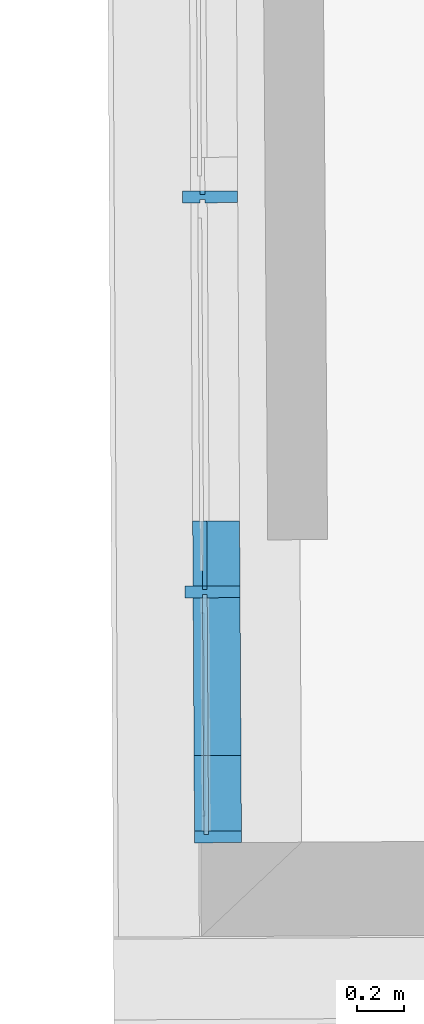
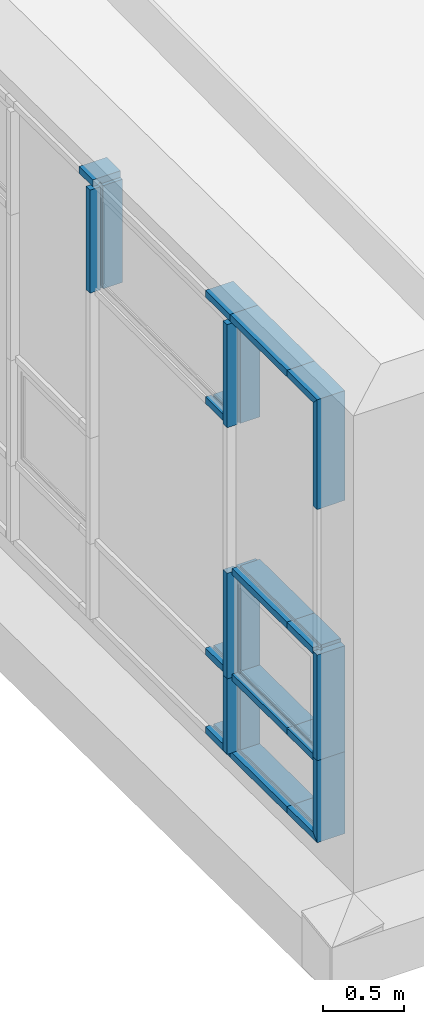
# One storey, part 116 of 158: 20 building element parts, 1 element without a shape of its own.
"""IFC2X3 building model written with IfcOpenShell, lengths in metres."""

import ifcopenshell
import ifcopenshell.guid

model = None  # the IFC model being written
_history = None  # IfcOwnerHistory: only IFC2X3 demands one
_inside = {}  # id of a spatial element -> (the spatial element, [elements in it])
_under = {}  # id of a project, library or spatial element -> (it, [spatial elements below it])
_declared = {}  # id of a project -> (the project, [libraries it declares])
_typed = {}  # id of a type object -> (the type object, [elements of that type])
_made_of = {}  # id of a material, layer set ... -> (it, [elements and type objects made of it])


def new_model(schema):
    """Start an empty IFC model of exactly this schema.

    Asked for "IFC4X3", IfcOpenShell would pick the latest addendum, in which some entities
    have other attributes; the version numbers below select the first issue.
    IFC2X3 requires an IfcOwnerHistory on every rooted entity: one is made here for all.
    """
    global model, _history
    if schema == "IFC4X3":
        model = ifcopenshell.file(schema_version=(4, 3, 0, 0))
    else:
        model = ifcopenshell.file(schema=schema)
    _inside.clear()
    _under.clear()
    _declared.clear()
    _typed.clear()
    _made_of.clear()
    _history = None
    if model.schema == "IFC2X3":
        org = make("IfcOrganization", Name="unknown")
        user = make(
            "IfcPersonAndOrganization",
            ThePerson=make("IfcPerson", FamilyName="unknown"),
            TheOrganization=org,
        )
        app = make(
            "IfcApplication",
            ApplicationDeveloper=org,
            Version="unknown",
            ApplicationFullName="unknown",
            ApplicationIdentifier="unknown",
        )
        _history = make(
            "IfcOwnerHistory",
            OwningUser=user,
            OwningApplication=app,
            ChangeAction="ADDED",
            CreationDate=0,
        )
    return model


def make(cls, **values):
    """One entity of the class cls with the attributes given. An attribute that is None is left unset."""
    return model.create_entity(
        cls, **{name: value for name, value in values.items() if value is not None}
    )


def entity(cls, *values):
    """Any entity or typed value of the class cls, its attributes in the order of the schema. None: left unset."""
    e = model.create_entity(cls)
    for i, value in enumerate(values):
        if value is not None:
            e[i] = value
    return e


def rooted(cls, **values):
    """An entity with a GlobalId (a new one), such as an element, a storey or a relation."""
    return make(cls, GlobalId=ifcopenshell.guid.new(), OwnerHistory=_history, **values)


def si_unit(unit_type, name, prefix=None):
    """IfcSIUnit, for example si_unit("LENGTHUNIT", "METRE", prefix="MILLI")."""
    return make("IfcSIUnit", UnitType=unit_type, Prefix=prefix, Name=name)


def converted_unit(unit_type, name, factor, base, dimensions=None, offset=None):
    """IfcConversionBasedUnit, such as the inch: factor (a typed value) times the base unit."""
    return make(
        "IfcConversionBasedUnit"
        if offset is None
        else "IfcConversionBasedUnitWithOffset",
        ConversionOffset=offset,
        Dimensions=None
        if dimensions is None
        else entity("IfcDimensionalExponents", *dimensions),
        UnitType=unit_type,
        Name=name,
        ConversionFactor=make(
            "IfcMeasureWithUnit", ValueComponent=factor, UnitComponent=base
        ),
    )


def derived_unit(unit_type, elements):
    """IfcDerivedUnit: a product of units, each with its exponent."""
    return make(
        "IfcDerivedUnit",
        Elements=[
            make("IfcDerivedUnitElement", Unit=unit, Exponent=power)
            for unit, power in elements
        ],
        UnitType=unit_type,
    )


def money_unit(currency):
    """IfcMonetaryUnit."""
    return make("IfcMonetaryUnit", Currency=currency)


def assignment(units):
    """IfcUnitAssignment: the units of a project."""
    return None if units is None else make("IfcUnitAssignment", Units=units)


def point(xyz):
    """IfcCartesianPoint."""
    return None if xyz is None else make("IfcCartesianPoint", Coordinates=xyz)


def direction(xyz):
    """IfcDirection."""
    return None if xyz is None else make("IfcDirection", DirectionRatios=xyz)


def frame(location, z_axis=None, x_axis=None):
    """IfcAxis2Placement3D, a coordinate frame: its origin and axes. An axis left out is left unset."""
    return make(
        "IfcAxis2Placement3D",
        Location=point(location),
        Axis=direction(z_axis),
        RefDirection=direction(x_axis),
    )


def origin_with_axes():
    """The frame at (0, 0, 0) with the z axis (0, 0, 1) and the x axis (1, 0, 0) written out."""
    return frame((0.0, 0.0, 0.0), z_axis=(0.0, 0.0, 1.0), x_axis=(1.0, 0.0, 0.0))


def place(relative_to, where):
    """IfcLocalPlacement: puts the frame where relative to a parent placement (None: the world)."""
    return make(
        "IfcLocalPlacement", PlacementRelTo=relative_to, RelativePlacement=where
    )


def context(
    kind, dimensions, precision=None, world=None, true_north=None, identifier=None
):
    """IfcGeometricRepresentationContext, for example the 3D "Model" context."""
    return make(
        "IfcGeometricRepresentationContext",
        ContextIdentifier=identifier,
        ContextType=kind,
        CoordinateSpaceDimension=dimensions,
        Precision=precision,
        WorldCoordinateSystem=world,
        TrueNorth=true_north,
    )


def subcontext(parent, identifier, kind, view, scale=None):
    """IfcGeometricRepresentationSubContext, for example "Body" below "Model"."""
    return make(
        "IfcGeometricRepresentationSubContext",
        ContextIdentifier=identifier,
        ContextType=kind,
        ParentContext=parent,
        TargetScale=scale,
        TargetView=view,
    )


def project(units=None, contexts=None):
    """IfcProject with its units and contexts."""
    return rooted(
        "IfcProject",
        Name="project",
        RepresentationContexts=contexts,
        UnitsInContext=assignment(units),
    )


def spatial(cls, under=None, at=None, **own):
    """A site, building, storey or space (cls), placed at a placement, below another one or the project."""
    s = rooted(cls, ObjectPlacement=at, **own)
    if under is not None:
        _under.setdefault(under.id(), (under, []))[1].append(s)
    return s


def faces_of(points, faces, orient=None, outer=None):
    """IfcFace entities. A face is a list of loops; a loop is a list of indices into points, from 0.

    orient and outer hold one flag for each loop. By default every Orientation is true, the
    first loop of a face is its IfcFaceOuterBound and the others are IfcFaceBound.
    """
    made = []
    for i, loops in enumerate(faces):
        bounds = []
        for j, loop in enumerate(loops):
            is_outer = j == 0 if outer is None else outer[i][j]
            bounds.append(
                make(
                    "IfcFaceOuterBound" if is_outer else "IfcFaceBound",
                    Bound=make("IfcPolyLoop", Polygon=[points[k] for k in loop]),
                    Orientation=True if orient is None else orient[i][j],
                )
            )
        made.append(make("IfcFace", Bounds=bounds))
    return made


def faceted_brep(points, faces, orient=None, outer=None, voids=None):
    """IfcFacetedBrep: a solid bounded by flat faces; with voids (closed shells), ...WithVoids."""
    shared = [point(p) for p in points]
    hull = make("IfcClosedShell", CfsFaces=faces_of(shared, faces, orient, outer))
    if voids is None:
        return make("IfcFacetedBrep", Outer=hull)
    return make(
        "IfcFacetedBrepWithVoids",
        Outer=hull,
        Voids=[
            make(cls, CfsFaces=faces_of(shared, fs, o, b)) for cls, fs, o, b in voids
        ],
    )


def shape(context_of_items, identifier, shape_type, items):
    """IfcShapeRepresentation: the items that make up one representation, for example the "Body"."""
    return make(
        "IfcShapeRepresentation",
        ContextOfItems=context_of_items,
        RepresentationIdentifier=identifier,
        RepresentationType=shape_type,
        Items=items,
    )


def material(Name=None, Category=None):
    """IfcMaterial."""
    return make("IfcMaterial", Name=Name, Category=Category)


def made_of(thing, what):
    """Note that an element or type object is made of a material, layer set ...; save() writes the relation."""
    if what is not None:
        _made_of.setdefault(what.id(), (what, []))[1].append(thing)
    return thing


def type_object(cls, material=None, **own):
    """A type object (cls), such as IfcWallType, which elements share."""
    return made_of(rooted(cls, **own), material)


def element(
    cls,
    number,
    at=None,
    inside=None,
    cuts=None,
    type_object=None,
    material=None,
    context=None,
    identifier="Body",
    shape_type=None,
    held_by="IfcProductDefinitionShape",
    body=None,
    shapes=None,
    **own,
):
    """One element of the class cls, such as IfcWall. Its Tag is "e" and its number.

    at: its placement. inside: the storey or other place that contains it. cuts: it is an
    opening in that element (IfcRelVoidsElement). A single representation is given by context,
    identifier, shape_type and body (its items); several are given by shapes. held_by: the class
    of the entity that holds the representations. save() writes the other relations.
    """
    e = rooted(cls, Tag="e%d" % number, ObjectPlacement=at, **own)
    if body is not None:
        shapes = [shape(context, identifier, shape_type, body)]
    if shapes is not None:
        e.Representation = make(held_by, Representations=shapes)
    if inside is not None:
        _inside.setdefault(inside.id(), (inside, []))[1].append(e)
    if cuts is not None:
        rooted(
            "IfcRelVoidsElement", RelatingBuildingElement=cuts, RelatedOpeningElement=e
        )
    if type_object is not None:
        _typed.setdefault(type_object.id(), (type_object, []))[1].append(e)
    return made_of(e, material)


def aggregate(whole, parts):
    """IfcRelAggregates: a whole, such as a stair, and the parts it consists of."""
    return rooted("IfcRelAggregates", RelatingObject=whole, RelatedObjects=parts)


def save(model, path):
    """Write the relations noted so far, then the file.

    IfcRelAggregates (storeys below a building ...), IfcRelContainedInSpatialStructure (elements
    in a storey), IfcRelDefinesByType, IfcRelAssociatesMaterial and IfcRelDeclares: one each for
    every whole, place, type object, material and project.
    """
    for whole, parts in _under.values():
        aggregate(whole, parts)
    for where, things in _inside.values():
        rooted(
            "IfcRelContainedInSpatialStructure",
            RelatedElements=things,
            RelatingStructure=where,
        )
    for kind, things in _typed.values():
        rooted("IfcRelDefinesByType", RelatedObjects=things, RelatingType=kind)
    for what, things in _made_of.values():
        rooted("IfcRelAssociatesMaterial", RelatedObjects=things, RelatingMaterial=what)
    for by, libraries in _declared.values():
        rooted("IfcRelDeclares", RelatingContext=by, RelatedDefinitions=libraries)
    model.write(path)


model = new_model("IFC2X3")

# Units and contexts
model_context = context("Model", 3, precision=1e-05, world=origin_with_axes(), true_north=direction((0.0, 1.0)))
body_context = subcontext(model_context, "Body", "Model", "MODEL_VIEW")
ifc_project = project(units=[si_unit("LENGTHUNIT", "METRE"), si_unit("AREAUNIT", "SQUARE_METRE"), si_unit("VOLUMEUNIT", "CUBIC_METRE"), converted_unit("PLANEANGLEUNIT", "DEGREE", entity("IfcPlaneAngleMeasure", 0.0174532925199), si_unit("PLANEANGLEUNIT", "RADIAN"), dimensions=[0, 0, 0, 0, 0, 0, 0]), money_unit("EUR"), converted_unit("TIMEUNIT", "Year", entity("IfcTimeMeasure", 31556926.0), si_unit("TIMEUNIT", "SECOND"), dimensions=[0, 0, 1, 0, 0, 0, 0]), si_unit("MASSUNIT", "GRAM", prefix="KILO"), si_unit("THERMODYNAMICTEMPERATUREUNIT", "DEGREE_CELSIUS"), si_unit("LUMINOUSINTENSITYUNIT", "LUMEN"), si_unit("ENERGYUNIT", "JOULE", prefix="MEGA"), derived_unit("THERMALCONDUCTANCEUNIT", [(si_unit("POWERUNIT", "WATT"), 1), (si_unit("LENGTHUNIT", "METRE"), -1), (si_unit("THERMODYNAMICTEMPERATUREUNIT", "KELVIN"), -1)]), derived_unit("SPECIFICHEATCAPACITYUNIT", [(si_unit("ENERGYUNIT", "JOULE"), 1), (si_unit("MASSUNIT", "GRAM", prefix="KILO"), -1), (si_unit("THERMODYNAMICTEMPERATUREUNIT", "KELVIN"), -1)]), derived_unit("MASSDENSITYUNIT", [(si_unit("MASSUNIT", "GRAM", prefix="KILO"), 1), (si_unit("VOLUMEUNIT", "CUBIC_METRE"), -1)])], contexts=[model_context])

# Site, building, storey
site_placement = place(None, origin_with_axes())
site = spatial("IfcSite", under=ifc_project, at=site_placement, Name="Gelände", CompositionType="ELEMENT")
building_placement = place(site_placement, origin_with_axes())
building = spatial("IfcBuilding", under=site, at=building_placement, Name="Gebäude", CompositionType="ELEMENT")
storey_placement = place(building_placement, origin_with_axes())
storey = spatial("IfcBuildingStorey", under=building, at=storey_placement, Name="ERDGESCHOSS", CompositionType="ELEMENT", Elevation=0.0)

# Proxy, building element parts
building_element_proxy_type = type_object("IfcBuildingElementProxyType", Name="Fassadentyp", PredefinedType="NOTDEFINED")
proxy_placement = place(storey_placement, frame((-34.8120286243, 34.4012060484, 1.3404389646), z_axis=(0.0, 0.0, 1.0), x_axis=(1.0, 0.0, 0.0)))
proxy = element("IfcBuildingElementProxy", 1, at=proxy_placement, inside=storey, type_object=building_element_proxy_type, Name="Fassade-002")
ifc_material = material(Name="53_Metall, Aluminium")
building_element_part_1_placement = place(proxy_placement, origin_with_axes())
building_element_part_1 = element("IfcBuildingElementPart", 2, at=building_element_part_1_placement, material=ifc_material, Name="53_Metall, Aluminium", context=body_context, shape_type="Brep", body=[
    faceted_brep([(0.0123890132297, -0.407317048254, 3.31499999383), (0.0123890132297, -0.407317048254, 3.29999999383), (0.152386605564, -0.406495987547, 3.29999999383), (0.152386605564, -0.406495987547, 3.34999999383), (-0.0476099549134, -0.407668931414, 3.34999999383), (-0.0476099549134, -0.407668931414, 3.29999999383), (-0.00761064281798, -0.407434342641, 3.29999999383), (-0.00761064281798, -0.407434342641, 3.31499999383), (0.011398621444, -0.238447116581, 3.31499999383), (0.011398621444, -0.238447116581, 3.29999999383), (0.151396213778, -0.237626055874, 3.29999999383), (0.151396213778, -0.237626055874, 3.34999999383), (-0.0486003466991, -0.238798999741, 3.34999999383), (-0.0486003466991, -0.238798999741, 3.29999999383), (-0.0086010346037, -0.238564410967, 3.29999999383), (-0.0086010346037, -0.238564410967, 3.31499999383)], [[[0, 1, 2, 3, 4, 5, 6, 7]], [[0, 8, 9, 1]], [[9, 10, 2, 1]], [[10, 11, 3, 2]], [[11, 12, 4, 3]], [[12, 13, 5, 4]], [[6, 5, 13, 14]], [[14, 15, 7, 6]], [[7, 15, 8, 0]], [[8, 15, 14, 13, 12, 11, 10, 9]]]),
])
building_element_part_2_placement = place(proxy_placement, origin_with_axes())
building_element_part_2 = element("IfcBuildingElementPart", 3, at=building_element_part_2_placement, material=ifc_material, Name="53_Metall, Aluminium", context=body_context, shape_type="Brep", body=[
    faceted_brep([(0.0223205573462, -2.10072686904, 3.29999996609), (0.0224085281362, -2.11572661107, 3.29999996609), (0.16240612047, -2.11490555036, 3.29999996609), (0.162112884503, -2.06490641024, 3.29999996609), (0.0221152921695, -2.06572747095, 3.29999996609), (0.0222032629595, -2.08072721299, 3.29999996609), (0.00220360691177, -2.08084450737, 3.29999996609), (0.00211563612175, -2.06584476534, 3.29999996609), (-0.0728830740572, -2.06628461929, 3.29999996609), (-0.0725898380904, -2.11628375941, 3.29999996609), (0.00240887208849, -2.11584390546, 3.29999996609), (0.00232090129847, -2.10084416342, 3.29999996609), (0.0223205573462, -2.10072686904, 2.52000009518), (0.0224085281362, -2.11572661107, 2.52000009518), (0.16240612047, -2.11490555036, 2.52000009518), (0.162112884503, -2.06490641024, 2.52000009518), (0.0221152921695, -2.06572747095, 2.52000009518), (0.0222032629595, -2.08072721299, 2.52000009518), (0.00220360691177, -2.08084450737, 2.52000009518), (0.00211563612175, -2.06584476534, 2.52000009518), (-0.0728830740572, -2.06628461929, 2.52000009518), (-0.0725898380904, -2.11628375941, 2.52000009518), (0.00240887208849, -2.11584390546, 2.52000009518), (0.00232090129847, -2.10084416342, 2.52000009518)], [[[0, 1, 2, 3, 4, 5, 6, 7, 8, 9, 10, 11]], [[1, 0, 12, 13]], [[1, 13, 14, 2]], [[3, 2, 14, 15]], [[4, 3, 15, 16]], [[4, 16, 17, 5]], [[5, 17, 18, 6]], [[7, 6, 18, 19]], [[19, 20, 8, 7]], [[9, 8, 20, 21]], [[22, 10, 9, 21]], [[11, 10, 22, 23]], [[0, 11, 23, 12]], [[23, 22, 21, 20, 19, 18, 17, 16, 15, 14, 13, 12]]]),
])
building_element_part_3_placement = place(proxy_placement, origin_with_axes())
building_element_part_3 = element("IfcBuildingElementPart", 4, at=building_element_part_3_placement, material=ifc_material, Name="53_Metall, Aluminium", context=body_context, shape_type="Brep", body=[
    faceted_brep([(0.0124476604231, -0.417316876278, 3.29999996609), (0.0125356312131, -0.432316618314, 3.29999996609), (0.152533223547, -0.431495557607, 3.29999996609), (0.15223998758, -0.381496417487, 3.29999996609), (0.0122423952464, -0.382317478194, 3.29999996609), (0.0123303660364, -0.39731722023, 3.29999996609), (-0.00766929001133, -0.397434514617, 3.29999996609), (-0.00775726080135, -0.382434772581, 3.29999996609), (-0.0827559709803, -0.382874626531, 3.29999996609), (-0.0824627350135, -0.43287376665, 3.29999996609), (-0.00746402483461, -0.4324339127, 3.29999996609), (-0.00755199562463, -0.417434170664, 3.29999996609), (0.0124476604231, -0.417316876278, 2.52000009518), (0.0125356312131, -0.432316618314, 2.52000009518), (0.152533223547, -0.431495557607, 2.52000009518), (0.15223998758, -0.381496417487, 2.52000009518), (0.0122423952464, -0.382317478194, 2.52000009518), (0.0123303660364, -0.39731722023, 2.52000009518), (-0.00766929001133, -0.397434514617, 2.52000009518), (-0.00775726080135, -0.382434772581, 2.52000009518), (-0.0827559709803, -0.382874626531, 2.52000009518), (-0.0824627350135, -0.43287376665, 2.52000009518), (-0.00746402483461, -0.4324339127, 2.52000009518), (-0.00755199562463, -0.417434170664, 2.52000009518)], [[[0, 1, 2, 3, 4, 5, 6, 7, 8, 9, 10, 11]], [[1, 0, 12, 13]], [[1, 13, 14, 2]], [[3, 2, 14, 15]], [[4, 3, 15, 16]], [[4, 16, 17, 5]], [[5, 17, 18, 6]], [[7, 6, 18, 19]], [[19, 20, 8, 7]], [[9, 8, 20, 21]], [[22, 10, 9, 21]], [[11, 10, 22, 23]], [[0, 11, 23, 12]], [[23, 22, 21, 20, 19, 18, 17, 16, 15, 14, 13, 12]]]),
])
building_element_part_4_placement = place(proxy_placement, origin_with_axes())
building_element_part_4 = element("IfcBuildingElementPart", 5, at=building_element_part_4_placement, material=ifc_material, Name="53_Metall, Aluminium", context=body_context, shape_type="Brep", body=[
    faceted_brep([(0.0263536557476, -2.78840326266, 3.31499999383), (0.0263536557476, -2.78840326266, 3.29999999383), (0.166351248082, -2.78758220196, 3.29999999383), (0.166351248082, -2.78758220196, 3.34999999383), (-0.0336453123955, -2.78875514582, 3.34999999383), (-0.0336453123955, -2.78875514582, 3.29999999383), (0.0063539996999, -2.78852055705, 3.29999999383), (0.0063539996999, -2.78852055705, 3.31499999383), (0.0222619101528, -2.09072704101, 3.31499999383), (0.0222619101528, -2.09072704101, 3.29999999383), (0.162259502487, -2.0899059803, 3.29999999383), (0.162259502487, -2.0899059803, 3.34999999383), (-0.0377370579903, -2.09107892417, 3.34999999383), (-0.0377370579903, -2.09107892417, 3.29999999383), (0.00226225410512, -2.0908443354, 3.29999999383), (0.00226225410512, -2.0908443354, 3.31499999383)], [[[0, 1, 2, 3, 4, 5, 6, 7]], [[0, 8, 9, 1]], [[9, 10, 2, 1]], [[10, 11, 3, 2]], [[11, 12, 4, 3]], [[12, 13, 5, 4]], [[6, 5, 13, 14]], [[14, 15, 7, 6]], [[7, 15, 8, 0]], [[8, 15, 14, 13, 12, 11, 10, 9]]]),
])
building_element_part_5_placement = place(proxy_placement, origin_with_axes())
building_element_part_5 = element("IfcBuildingElementPart", 6, at=building_element_part_5_placement, material=ifc_material, Name="53_Metall, Aluminium", context=body_context, shape_type="Brep", body=[
    faceted_brep([(0.0283260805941, -3.12471789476, 0.035), (0.00832642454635, -3.12483518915, 0.035), (0.00823845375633, -3.10983544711, 0.05), (-0.0317608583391, -3.11007003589, 0.05), (-0.0314676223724, -3.16006917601, 0.0), (0.168528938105, -3.15889623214, 0.0), (0.168235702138, -3.10889709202, 0.05), (0.028238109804, -3.10971815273, 0.05), (0.0263536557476, -2.78840326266, 0.035), (0.0063539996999, -2.78852055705, 0.035), (0.0063539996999, -2.78852055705, 0.05), (-0.0336453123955, -2.78875514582, 0.05), (-0.0336453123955, -2.78875514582, 0.0), (0.166351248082, -2.78758220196, 0.0), (0.166351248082, -2.78758220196, 0.05), (0.0263536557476, -2.78840326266, 0.05)], [[[0, 1, 2, 3, 4, 5, 6, 7]], [[1, 0, 8, 9]], [[10, 2, 1, 9]], [[2, 10, 11, 3]], [[12, 4, 3, 11]], [[13, 5, 4, 12]], [[14, 6, 5, 13]], [[15, 7, 6, 14]], [[0, 7, 15, 8]], [[8, 15, 14, 13, 12, 11, 10, 9]]]),
])
building_element_part_6_placement = place(proxy_placement, origin_with_axes())
building_element_part_6 = element("IfcBuildingElementPart", 7, at=building_element_part_6_placement, material=ifc_material, Name="53_Metall, Aluminium", context=body_context, shape_type="Brep", body=[
    faceted_brep([(0.0222619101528, -2.09072704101, 0.035), (0.00226225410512, -2.0908443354, 0.035), (0.00226225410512, -2.0908443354, 0.05), (-0.0377370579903, -2.09107892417, 0.05), (-0.0377370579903, -2.09107892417, 0.0), (0.162259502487, -2.0899059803, 0.0), (0.162259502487, -2.0899059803, 0.05), (0.0222619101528, -2.09072704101, 0.05), (0.0204889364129, -1.78842046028, 0.035), (0.000489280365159, -1.78853775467, 0.035), (0.000489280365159, -1.78853775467, 0.05), (-0.0395100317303, -1.78877234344, 0.05), (-0.0395100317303, -1.78877234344, 0.0), (0.160486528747, -1.78759939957, 0.0), (0.160486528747, -1.78759939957, 0.05), (0.0204889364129, -1.78842046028, 0.05)], [[[0, 1, 2, 3, 4, 5, 6, 7]], [[1, 0, 8, 9]], [[10, 2, 1, 9]], [[2, 10, 11, 3]], [[12, 4, 3, 11]], [[13, 5, 4, 12]], [[14, 6, 5, 13]], [[15, 7, 6, 14]], [[0, 7, 15, 8]], [[8, 15, 14, 13, 12, 11, 10, 9]]]),
])
building_element_part_7_placement = place(proxy_placement, origin_with_axes())
building_element_part_7 = element("IfcBuildingElementPart", 8, at=building_element_part_7_placement, material=ifc_material, Name="53_Metall, Aluminium", context=body_context, shape_type="Brep", body=[
    faceted_brep([(0.0223205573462, -2.10072686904, 0.620000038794), (0.0224085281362, -2.11572661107, 0.620000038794), (0.16240612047, -2.11490555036, 0.620000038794), (0.162112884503, -2.06490641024, 0.620000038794), (0.0221152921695, -2.06572747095, 0.620000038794), (0.0222032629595, -2.08072721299, 0.620000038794), (0.00220360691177, -2.08084450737, 0.620000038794), (0.00211563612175, -2.06584476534, 0.620000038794), (-0.0728830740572, -2.06628461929, 0.620000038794), (-0.0725898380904, -2.11628375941, 0.620000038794), (0.00240887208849, -2.11584390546, 0.620000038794), (0.00232090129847, -2.10084416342, 0.620000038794), (0.0223205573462, -2.10072686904, 0.0500000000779), (0.0224085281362, -2.11572661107, 0.0500000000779), (0.16240612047, -2.11490555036, 0.0500000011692), (0.162112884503, -2.06490641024, 0.0500000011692), (0.0221152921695, -2.06572747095, 0.0500000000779), (0.0222032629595, -2.08072721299, 0.0500000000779), (0.00220360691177, -2.08084450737, 0.0499999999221), (0.00211563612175, -2.06584476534, 0.0499999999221), (-0.0728830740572, -2.06628461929, 0.0499999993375), (-0.0725898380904, -2.11628375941, 0.0499999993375), (0.00240887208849, -2.11584390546, 0.0499999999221), (0.00232090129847, -2.10084416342, 0.0499999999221)], [[[0, 1, 2, 3, 4, 5, 6, 7, 8, 9, 10, 11]], [[1, 0, 12, 13]], [[1, 13, 14, 2]], [[2, 14, 15, 3]], [[4, 3, 15, 16]], [[4, 16, 17, 5]], [[5, 17, 18, 6]], [[7, 6, 18, 19]], [[19, 20, 8, 7]], [[8, 20, 21, 9]], [[22, 10, 9, 21]], [[11, 10, 22, 23]], [[0, 11, 23, 12]], [[23, 22, 21, 20, 19, 18, 17, 16, 15, 14, 13, 12]]]),
])
building_element_part_8_placement = place(proxy_placement, origin_with_axes())
building_element_part_8 = element("IfcBuildingElementPart", 9, at=building_element_part_8_placement, material=ifc_material, Name="53_Metall, Aluminium", context=body_context, shape_type="Brep", body=[
    faceted_brep([(0.0221152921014, -2.06572745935, 0.610000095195), (0.0221152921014, -2.06572745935, 0.595000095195), (0.16211288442, -2.06490639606, 0.595000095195), (0.16211288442, -2.06490639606, 0.645000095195), (0.0221152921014, -2.06572745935, 0.645000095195), (0.0221152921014, -2.06572745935, 0.630000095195), (0.00211563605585, -2.0658447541, 0.630000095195), (0.00211563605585, -2.0658447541, 0.645000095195), (-0.0378836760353, -2.06607934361, 0.645000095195), (-0.0378836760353, -2.06607934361, 0.595000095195), (0.00211563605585, -2.0658447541, 0.595000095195), (0.00211563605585, -2.0658447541, 0.610000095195), (0.0204889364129, -1.78842046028, 0.610000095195), (0.0204889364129, -1.78842046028, 0.595000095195), (0.160486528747, -1.78759939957, 0.595000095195), (0.160486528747, -1.78759939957, 0.645000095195), (0.0204889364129, -1.78842046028, 0.645000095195), (0.0204889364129, -1.78842046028, 0.630000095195), (0.000489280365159, -1.78853775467, 0.630000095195), (0.000489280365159, -1.78853775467, 0.645000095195), (-0.0395100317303, -1.78877234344, 0.645000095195), (-0.0395100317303, -1.78877234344, 0.595000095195), (0.000489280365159, -1.78853775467, 0.595000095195), (0.000489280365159, -1.78853775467, 0.610000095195)], [[[0, 1, 2, 3, 4, 5, 6, 7, 8, 9, 10, 11]], [[1, 0, 12, 13]], [[1, 13, 14, 2]], [[3, 2, 14, 15]], [[4, 3, 15, 16]], [[4, 16, 17, 5]], [[5, 17, 18, 6]], [[7, 6, 18, 19]], [[19, 20, 8, 7]], [[9, 8, 20, 21]], [[22, 10, 9, 21]], [[11, 10, 22, 23]], [[0, 11, 23, 12]], [[23, 22, 21, 20, 19, 18, 17, 16, 15, 14, 13, 12]]]),
])
building_element_part_9_placement = place(proxy_placement, origin_with_axes())
building_element_part_9 = element("IfcBuildingElementPart", 10, at=building_element_part_9_placement, material=ifc_material, Name="53_Metall, Aluminium", context=body_context, shape_type="Brep", body=[
    faceted_brep([(0.0223205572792, -2.10072685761, 1.42000009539), (0.0224085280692, -2.11572659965, 1.42000009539), (0.162406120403, -2.11490553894, 1.42000009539), (0.162112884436, -2.06490639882, 1.42000009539), (0.0221152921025, -2.06572745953, 1.42000009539), (0.0222032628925, -2.08072720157, 1.42000009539), (0.00220360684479, -2.08084449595, 1.42000009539), (0.00211563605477, -2.06584475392, 1.42000009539), (-0.0728830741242, -2.06628460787, 1.42000009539), (-0.0725898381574, -2.11628374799, 1.42000009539), (0.0024088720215, -2.11584389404, 1.42000009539), (0.00232090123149, -2.100844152, 1.42000009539), (0.0223205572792, -2.10072685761, 0.620000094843), (0.0224085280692, -2.11572659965, 0.620000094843), (0.162406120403, -2.11490553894, 0.620000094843), (0.162112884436, -2.06490639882, 0.620000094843), (0.0221152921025, -2.06572745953, 0.620000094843), (0.0222032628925, -2.08072720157, 0.620000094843), (0.00220360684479, -2.08084449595, 0.620000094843), (0.00211563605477, -2.06584475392, 0.620000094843), (-0.0728830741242, -2.06628460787, 0.620000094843), (-0.0725898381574, -2.11628374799, 0.620000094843), (0.0024088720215, -2.11584389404, 0.620000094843), (0.00232090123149, -2.100844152, 0.620000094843)], [[[0, 1, 2, 3, 4, 5, 6, 7, 8, 9, 10, 11]], [[1, 0, 12, 13]], [[1, 13, 14, 2]], [[3, 2, 14, 15]], [[4, 3, 15, 16]], [[4, 16, 17, 5]], [[5, 17, 18, 6]], [[7, 6, 18, 19]], [[19, 20, 8, 7]], [[9, 8, 20, 21]], [[22, 10, 9, 21]], [[11, 10, 22, 23]], [[0, 11, 23, 12]], [[23, 22, 21, 20, 19, 18, 17, 16, 15, 14, 13, 12]]]),
])
building_element_part_10_placement = place(proxy_placement, origin_with_axes())
building_element_part_10 = element("IfcBuildingElementPart", 11, at=building_element_part_10_placement, material=ifc_material, Name="53_Metall, Aluminium", context=body_context, shape_type="Brep", body=[
    faceted_brep([(0.0221152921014, -2.06572745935, 2.5100000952), (0.0221152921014, -2.06572745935, 2.4950000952), (0.16211288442, -2.06490639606, 2.4950000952), (0.16211288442, -2.06490639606, 2.5450000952), (0.0221152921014, -2.06572745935, 2.5450000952), (0.0221152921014, -2.06572745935, 2.5300000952), (0.00211563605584, -2.0658447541, 2.5300000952), (0.00211563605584, -2.0658447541, 2.5450000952), (-0.0378836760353, -2.06607934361, 2.5450000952), (-0.0378836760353, -2.06607934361, 2.4950000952), (0.00211563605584, -2.0658447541, 2.4950000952), (0.00211563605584, -2.0658447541, 2.5100000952), (0.0204889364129, -1.78842046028, 2.5100000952), (0.0204889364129, -1.78842046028, 2.4950000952), (0.160486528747, -1.78759939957, 2.4950000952), (0.160486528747, -1.78759939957, 2.5450000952), (0.0204889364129, -1.78842046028, 2.5450000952), (0.0204889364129, -1.78842046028, 2.5300000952), (0.000489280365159, -1.78853775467, 2.5300000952), (0.000489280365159, -1.78853775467, 2.5450000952), (-0.0395100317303, -1.78877234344, 2.5450000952), (-0.0395100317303, -1.78877234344, 2.4950000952), (0.000489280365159, -1.78853775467, 2.4950000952), (0.000489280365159, -1.78853775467, 2.5100000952)], [[[0, 1, 2, 3, 4, 5, 6, 7, 8, 9, 10, 11]], [[1, 0, 12, 13]], [[1, 13, 14, 2]], [[3, 2, 14, 15]], [[4, 3, 15, 16]], [[4, 16, 17, 5]], [[5, 17, 18, 6]], [[7, 6, 18, 19]], [[19, 20, 8, 7]], [[9, 8, 20, 21]], [[22, 10, 9, 21]], [[11, 10, 22, 23]], [[0, 11, 23, 12]], [[23, 22, 21, 20, 19, 18, 17, 16, 15, 14, 13, 12]]]),
])
building_element_part_11_placement = place(proxy_placement, origin_with_axes())
building_element_part_11 = element("IfcBuildingElementPart", 12, at=building_element_part_11_placement, material=ifc_material, Name="53_Metall, Aluminium", context=body_context, shape_type="Brep", body=[
    faceted_brep([(0.0222619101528, -2.09072704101, 3.31499999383), (0.0222619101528, -2.09072704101, 3.29999999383), (0.162259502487, -2.0899059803, 3.29999999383), (0.162259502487, -2.0899059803, 3.34999999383), (-0.0377370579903, -2.09107892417, 3.34999999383), (-0.0377370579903, -2.09107892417, 3.29999999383), (0.00226225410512, -2.0908443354, 3.29999999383), (0.00226225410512, -2.0908443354, 3.31499999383), (0.0204889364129, -1.78842046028, 3.31499999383), (0.0204889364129, -1.78842046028, 3.29999999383), (0.160486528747, -1.78759939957, 3.29999999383), (0.160486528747, -1.78759939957, 3.34999999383), (-0.0395100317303, -1.78877234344, 3.34999999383), (-0.0395100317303, -1.78877234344, 3.29999999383), (0.000489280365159, -1.78853775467, 3.29999999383), (0.000489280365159, -1.78853775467, 3.31499999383)], [[[0, 1, 2, 3, 4, 5, 6, 7]], [[0, 8, 9, 1]], [[9, 10, 2, 1]], [[10, 11, 3, 2]], [[11, 12, 4, 3]], [[12, 13, 5, 4]], [[6, 5, 13, 14]], [[14, 15, 7, 6]], [[7, 15, 8, 0]], [[8, 15, 14, 13, 12, 11, 10, 9]]]),
])
building_element_part_12_placement = place(proxy_placement, origin_with_axes())
building_element_part_12 = element("IfcBuildingElementPart", 13, at=building_element_part_12_placement, material=ifc_material, Name="53_Metall, Aluminium", context=body_context, shape_type="Brep", body=[
    faceted_brep([(0.0283260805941, -3.12471789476, 1.4200000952), (0.00832642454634, -3.12483518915, 1.4200000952), (0.00823845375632, -3.10983544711, 1.4200000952), (-0.0317608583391, -3.11007003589, 1.4200000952), (-0.0314676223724, -3.16006917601, 1.4200000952), (0.168528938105, -3.15889623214, 1.4200000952), (0.168235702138, -3.10889709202, 1.4200000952), (0.028238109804, -3.10971815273, 1.4200000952), (0.0283260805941, -3.12471789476, 0.620000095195), (0.00832642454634, -3.12483518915, 0.620000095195), (0.00823845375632, -3.10983544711, 0.620000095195), (-0.0317608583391, -3.11007003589, 0.620000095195), (-0.0314676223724, -3.16006917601, 0.620000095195), (0.168528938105, -3.15889623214, 0.620000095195), (0.168235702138, -3.10889709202, 0.620000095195), (0.028238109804, -3.10971815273, 0.620000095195)], [[[0, 1, 2, 3, 4, 5, 6, 7]], [[1, 0, 8, 9]], [[10, 2, 1, 9]], [[2, 10, 11, 3]], [[12, 4, 3, 11]], [[13, 5, 4, 12]], [[14, 6, 5, 13]], [[15, 7, 6, 14]], [[0, 7, 15, 8]], [[8, 15, 14, 13, 12, 11, 10, 9]]]),
])
building_element_part_13_placement = place(proxy_placement, origin_with_axes())
building_element_part_13 = element("IfcBuildingElementPart", 14, at=building_element_part_13_placement, material=ifc_material, Name="53_Metall, Aluminium", context=body_context, shape_type="Brep", body=[
    faceted_brep([(0.0283260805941, -3.12471789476, 3.31500000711), (0.00832642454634, -3.12483518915, 3.31500000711), (0.00823845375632, -3.10983544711, 3.30000000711), (-0.0317608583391, -3.11007003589, 3.30000000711), (-0.0314676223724, -3.16006917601, 3.35000000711), (0.168528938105, -3.15889623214, 3.35000000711), (0.168235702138, -3.10889709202, 3.30000000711), (0.028238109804, -3.10971815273, 3.30000000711), (0.0283260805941, -3.12471789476, 2.5200000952), (0.00832642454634, -3.12483518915, 2.5200000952), (0.00823845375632, -3.10983544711, 2.5200000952), (-0.0317608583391, -3.11007003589, 2.5200000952), (-0.0314676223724, -3.16006917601, 2.5200000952), (0.168528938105, -3.15889623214, 2.5200000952), (0.168235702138, -3.10889709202, 2.5200000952), (0.028238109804, -3.10971815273, 2.5200000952)], [[[0, 1, 2, 3, 4, 5, 6, 7]], [[1, 0, 8, 9]], [[10, 2, 1, 9]], [[2, 10, 11, 3]], [[12, 4, 3, 11]], [[13, 5, 4, 12]], [[14, 6, 5, 13]], [[15, 7, 6, 14]], [[0, 7, 15, 8]], [[8, 15, 14, 13, 12, 11, 10, 9]]]),
])
building_element_part_14_placement = place(proxy_placement, origin_with_axes())
building_element_part_14 = element("IfcBuildingElementPart", 15, at=building_element_part_14_placement, material=ifc_material, Name="53_Metall, Aluminium", context=body_context, shape_type="Brep", body=[
    faceted_brep([(0.0283260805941, -3.12471789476, 3.31499999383), (0.028238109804, -3.10971815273, 3.29999999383), (0.168235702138, -3.10889709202, 3.29999999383), (0.168528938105, -3.15889623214, 3.34999999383), (-0.0314676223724, -3.16006917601, 3.34999999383), (-0.0317608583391, -3.11007003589, 3.29999999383), (0.00823845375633, -3.10983544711, 3.29999999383), (0.00832642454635, -3.12483518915, 3.31499999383), (0.0263536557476, -2.78840326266, 3.31499999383), (0.0263536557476, -2.78840326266, 3.29999999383), (0.166351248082, -2.78758220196, 3.29999999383), (0.166351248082, -2.78758220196, 3.34999999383), (-0.0336453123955, -2.78875514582, 3.34999999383), (-0.0336453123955, -2.78875514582, 3.29999999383), (0.0063539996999, -2.78852055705, 3.29999999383), (0.0063539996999, -2.78852055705, 3.31499999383)], [[[0, 1, 2, 3, 4, 5, 6, 7]], [[0, 8, 9, 1]], [[9, 10, 2, 1]], [[10, 11, 3, 2]], [[11, 12, 4, 3]], [[12, 13, 5, 4]], [[6, 5, 13, 14]], [[14, 15, 7, 6]], [[7, 15, 8, 0]], [[8, 15, 14, 13, 12, 11, 10, 9]]]),
])
building_element_part_15_placement = place(proxy_placement, origin_with_axes())
building_element_part_15 = element("IfcBuildingElementPart", 16, at=building_element_part_15_placement, material=ifc_material, Name="53_Metall, Aluminium", context=body_context, shape_type="Brep", body=[
    faceted_brep([(0.0283260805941, -3.12471789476, 0.620000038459), (0.00832642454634, -3.12483518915, 0.620000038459), (0.00823845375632, -3.10983544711, 0.620000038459), (-0.0317608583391, -3.11007003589, 0.620000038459), (-0.0314676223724, -3.16006917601, 0.620000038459), (0.168528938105, -3.15889623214, 0.620000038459), (0.168235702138, -3.10889709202, 0.620000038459), (0.028238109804, -3.10971815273, 0.620000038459), (0.0283260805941, -3.12471789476, 0.035), (0.00832642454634, -3.12483518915, 0.035), (0.00823845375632, -3.10983544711, 0.05), (-0.0317608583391, -3.11007003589, 0.05), (-0.0314676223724, -3.16006917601, 0.0), (0.168528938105, -3.15889623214, 0.0), (0.168235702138, -3.10889709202, 0.05), (0.028238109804, -3.10971815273, 0.05)], [[[0, 1, 2, 3, 4, 5, 6, 7]], [[1, 0, 8, 9]], [[10, 2, 1, 9]], [[2, 10, 11, 3]], [[4, 3, 11, 12]], [[5, 4, 12, 13]], [[6, 5, 13, 14]], [[15, 7, 6, 14]], [[0, 7, 15, 8]], [[8, 15, 14, 13, 12, 11, 10, 9]]]),
])
building_element_part_16_placement = place(proxy_placement, origin_with_axes())
building_element_part_16 = element("IfcBuildingElementPart", 17, at=building_element_part_16_placement, material=ifc_material, Name="53_Metall, Aluminium", context=body_context, shape_type="Brep", body=[
    faceted_brep([(0.0263536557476, -2.78840326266, 0.035), (0.0063539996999, -2.78852055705, 0.035), (0.0063539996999, -2.78852055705, 0.05), (-0.0336453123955, -2.78875514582, 0.05), (-0.0336453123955, -2.78875514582, 0.0), (0.166351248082, -2.78758220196, 0.0), (0.166351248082, -2.78758220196, 0.05), (0.0263536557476, -2.78840326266, 0.05), (0.0222619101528, -2.09072704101, 0.035), (0.00226225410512, -2.0908443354, 0.035), (0.00226225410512, -2.0908443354, 0.05), (-0.0377370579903, -2.09107892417, 0.05), (-0.0377370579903, -2.09107892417, 0.0), (0.162259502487, -2.0899059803, 0.0), (0.162259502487, -2.0899059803, 0.05), (0.0222619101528, -2.09072704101, 0.05)], [[[0, 1, 2, 3, 4, 5, 6, 7]], [[1, 0, 8, 9]], [[10, 2, 1, 9]], [[2, 10, 11, 3]], [[12, 4, 3, 11]], [[13, 5, 4, 12]], [[14, 6, 5, 13]], [[15, 7, 6, 14]], [[0, 7, 15, 8]], [[8, 15, 14, 13, 12, 11, 10, 9]]]),
])
building_element_part_17_placement = place(proxy_placement, origin_with_axes())
building_element_part_17 = element("IfcBuildingElementPart", 18, at=building_element_part_17_placement, material=ifc_material, Name="53_Metall, Aluminium", context=body_context, shape_type="Brep", body=[
    faceted_brep([(0.0263536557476, -2.78840326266, 0.610000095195), (0.0263536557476, -2.78840326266, 0.595000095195), (0.166351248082, -2.78758220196, 0.595000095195), (0.166351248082, -2.78758220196, 0.645000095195), (0.0263536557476, -2.78840326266, 0.645000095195), (0.0263536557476, -2.78840326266, 0.630000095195), (0.0063539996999, -2.78852055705, 0.630000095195), (0.0063539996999, -2.78852055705, 0.645000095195), (-0.0336453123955, -2.78875514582, 0.645000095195), (-0.0336453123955, -2.78875514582, 0.595000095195), (0.0063539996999, -2.78852055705, 0.595000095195), (0.0063539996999, -2.78852055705, 0.610000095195), (0.02240852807, -2.11572659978, 0.610000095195), (0.02240852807, -2.11572659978, 0.595000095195), (0.162406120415, -2.1149055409, 0.595000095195), (0.162406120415, -2.1149055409, 0.645000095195), (0.02240852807, -2.11572659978, 0.645000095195), (0.02240852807, -2.11572659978, 0.630000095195), (0.00240887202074, -2.11584389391, 0.630000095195), (0.00240887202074, -2.11584389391, 0.645000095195), (-0.0375904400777, -2.11607848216, 0.645000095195), (-0.0375904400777, -2.11607848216, 0.595000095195), (0.00240887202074, -2.11584389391, 0.595000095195), (0.00240887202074, -2.11584389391, 0.610000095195)], [[[0, 1, 2, 3, 4, 5, 6, 7, 8, 9, 10, 11]], [[1, 0, 12, 13]], [[1, 13, 14, 2]], [[2, 14, 15, 3]], [[4, 3, 15, 16]], [[4, 16, 17, 5]], [[5, 17, 18, 6]], [[7, 6, 18, 19]], [[19, 20, 8, 7]], [[8, 20, 21, 9]], [[22, 10, 9, 21]], [[11, 10, 22, 23]], [[0, 11, 23, 12]], [[23, 22, 21, 20, 19, 18, 17, 16, 15, 14, 13, 12]]]),
])
building_element_part_18_placement = place(proxy_placement, origin_with_axes())
building_element_part_18 = element("IfcBuildingElementPart", 19, at=building_element_part_18_placement, material=ifc_material, Name="53_Metall, Aluminium", context=body_context, shape_type="Brep", body=[
    faceted_brep([(0.028238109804, -3.10971815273, 0.610000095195), (0.028238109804, -3.10971815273, 0.595000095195), (0.168235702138, -3.10889709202, 0.595000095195), (0.168235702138, -3.10889709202, 0.645000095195), (0.028238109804, -3.10971815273, 0.645000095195), (0.028238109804, -3.10971815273, 0.630000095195), (0.00823845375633, -3.10983544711, 0.630000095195), (0.00823845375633, -3.10983544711, 0.645000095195), (-0.0317608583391, -3.11007003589, 0.645000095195), (-0.0317608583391, -3.11007003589, 0.595000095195), (0.00823845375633, -3.10983544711, 0.595000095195), (0.00823845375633, -3.10983544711, 0.610000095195), (0.0263536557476, -2.78840326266, 0.610000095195), (0.0263536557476, -2.78840326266, 0.595000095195), (0.166351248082, -2.78758220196, 0.595000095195), (0.166351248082, -2.78758220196, 0.645000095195), (0.0263536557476, -2.78840326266, 0.645000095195), (0.0263536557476, -2.78840326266, 0.630000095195), (0.0063539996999, -2.78852055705, 0.630000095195), (0.0063539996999, -2.78852055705, 0.645000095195), (-0.0336453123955, -2.78875514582, 0.645000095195), (-0.0336453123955, -2.78875514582, 0.595000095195), (0.0063539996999, -2.78852055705, 0.595000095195), (0.0063539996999, -2.78852055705, 0.610000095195)], [[[0, 1, 2, 3, 4, 5, 6, 7, 8, 9, 10, 11]], [[1, 0, 12, 13]], [[1, 13, 14, 2]], [[3, 2, 14, 15]], [[4, 3, 15, 16]], [[4, 16, 17, 5]], [[5, 17, 18, 6]], [[7, 6, 18, 19]], [[19, 20, 8, 7]], [[9, 8, 20, 21]], [[22, 10, 9, 21]], [[11, 10, 22, 23]], [[0, 11, 23, 12]], [[23, 22, 21, 20, 19, 18, 17, 16, 15, 14, 13, 12]]]),
])
building_element_part_19_placement = place(proxy_placement, origin_with_axes())
building_element_part_19 = element("IfcBuildingElementPart", 20, at=building_element_part_19_placement, material=ifc_material, Name="53_Metall, Aluminium", context=body_context, shape_type="Brep", body=[
    faceted_brep([(0.0263536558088, -2.78840327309, 1.4100000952), (0.0263536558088, -2.78840327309, 1.3950000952), (0.166351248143, -2.78758221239, 1.3950000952), (0.166351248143, -2.78758221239, 1.4450000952), (0.0263536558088, -2.78840327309, 1.4450000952), (0.0263536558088, -2.78840327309, 1.4300000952), (0.00635399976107, -2.78852056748, 1.4300000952), (0.00635399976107, -2.78852056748, 1.4450000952), (-0.0336453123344, -2.78875515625, 1.4450000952), (-0.0336453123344, -2.78875515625, 1.3950000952), (0.00635399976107, -2.78852056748, 1.3950000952), (0.00635399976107, -2.78852056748, 1.4100000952), (0.0224085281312, -2.11572661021, 1.4100000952), (0.0224085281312, -2.11572661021, 1.3950000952), (0.162406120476, -2.11490555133, 1.3950000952), (0.162406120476, -2.11490555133, 1.4450000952), (0.0224085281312, -2.11572661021, 1.4450000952), (0.0224085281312, -2.11572661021, 1.4300000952), (0.00240887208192, -2.11584390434, 1.4300000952), (0.00240887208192, -2.11584390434, 1.4450000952), (-0.0375904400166, -2.11607849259, 1.4450000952), (-0.0375904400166, -2.11607849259, 1.3950000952), (0.00240887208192, -2.11584390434, 1.3950000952), (0.00240887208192, -2.11584390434, 1.4100000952)], [[[0, 1, 2, 3, 4, 5, 6, 7, 8, 9, 10, 11]], [[1, 0, 12, 13]], [[1, 13, 14, 2]], [[2, 14, 15, 3]], [[4, 3, 15, 16]], [[4, 16, 17, 5]], [[5, 17, 18, 6]], [[7, 6, 18, 19]], [[19, 20, 8, 7]], [[8, 20, 21, 9]], [[22, 10, 9, 21]], [[11, 10, 22, 23]], [[0, 11, 23, 12]], [[23, 22, 21, 20, 19, 18, 17, 16, 15, 14, 13, 12]]]),
])
building_element_part_20_placement = place(proxy_placement, origin_with_axes())
building_element_part_20 = element("IfcBuildingElementPart", 21, at=building_element_part_20_placement, material=ifc_material, Name="53_Metall, Aluminium", context=body_context, shape_type="Brep", body=[
    faceted_brep([(0.028238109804, -3.10971815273, 1.4100000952), (0.028238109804, -3.10971815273, 1.3950000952), (0.168235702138, -3.10889709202, 1.3950000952), (0.168235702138, -3.10889709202, 1.4450000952), (0.028238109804, -3.10971815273, 1.4450000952), (0.028238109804, -3.10971815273, 1.4300000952), (0.00823845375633, -3.10983544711, 1.4300000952), (0.00823845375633, -3.10983544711, 1.4450000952), (-0.0317608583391, -3.11007003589, 1.4450000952), (-0.0317608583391, -3.11007003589, 1.3950000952), (0.00823845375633, -3.10983544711, 1.3950000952), (0.00823845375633, -3.10983544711, 1.4100000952), (0.0263536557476, -2.78840326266, 1.4100000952), (0.0263536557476, -2.78840326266, 1.3950000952), (0.166351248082, -2.78758220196, 1.3950000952), (0.166351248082, -2.78758220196, 1.4450000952), (0.0263536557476, -2.78840326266, 1.4450000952), (0.0263536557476, -2.78840326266, 1.4300000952), (0.0063539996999, -2.78852055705, 1.4300000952), (0.0063539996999, -2.78852055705, 1.4450000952), (-0.0336453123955, -2.78875514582, 1.4450000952), (-0.0336453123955, -2.78875514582, 1.3950000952), (0.0063539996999, -2.78852055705, 1.3950000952), (0.0063539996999, -2.78852055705, 1.4100000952)], [[[0, 1, 2, 3, 4, 5, 6, 7, 8, 9, 10, 11]], [[1, 0, 12, 13]], [[1, 13, 14, 2]], [[3, 2, 14, 15]], [[4, 3, 15, 16]], [[4, 16, 17, 5]], [[5, 17, 18, 6]], [[7, 6, 18, 19]], [[19, 20, 8, 7]], [[9, 8, 20, 21]], [[22, 10, 9, 21]], [[11, 10, 22, 23]], [[0, 11, 23, 12]], [[23, 22, 21, 20, 19, 18, 17, 16, 15, 14, 13, 12]]]),
])
aggregate(proxy, [building_element_part_1, building_element_part_2, building_element_part_3, building_element_part_4, building_element_part_5, building_element_part_6, building_element_part_7, building_element_part_8, building_element_part_9, building_element_part_10, building_element_part_11, building_element_part_12, building_element_part_13, building_element_part_14, building_element_part_15, building_element_part_16, building_element_part_17, building_element_part_18, building_element_part_19, building_element_part_20])

save(model, "model.ifc")
